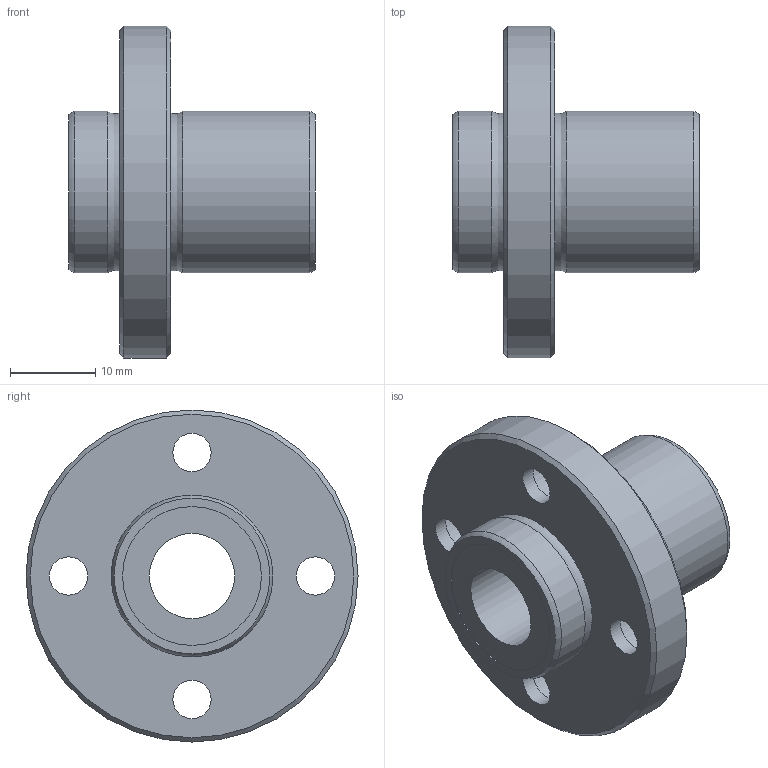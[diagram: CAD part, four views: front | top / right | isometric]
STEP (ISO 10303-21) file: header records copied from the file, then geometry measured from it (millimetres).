
FILE_DESCRIPTION((''),'2;1');
FILE_NAME('D:\製品 (図面)\カタログ用3D\リニアベアリング関連\STEP形式\LFB\LFB10.stp','2010-06-03T09:16:11',('Tsuchiya'),(''),'Autodesk Inventor 10','Autodesk Inventor 10','');
FILE_SCHEMA(('AUTOMOTIVE_DESIGN { 1 0 10303 214 1 1 1 1 }'));
Length unit declared in the file: millimetre
Products named in the file (1): LFB10
Bounding box: 29 x 39 x 39 mm (x, y, z)
Volume: 10331.4 mm3; surface area: 5581.3 mm2
Topology: 1 solids, 1 shells, 30 faces, 54 edges, 34 vertices
Faces by surface type: bspline 14, cylinder 6, plane 6, cone 2, torus 2
Full cylindrical faces by diameter (mm): 10 x1, 16.3 x2, 19 x2, 39 x1
Entity records: 907 total; most frequent: CARTESIAN_POINT 371, DIRECTION 102, ORIENTED_EDGE 68, EDGE_LOOP 68, AXIS2_PLACEMENT_3D 51, FACE_BOUND 38, VERTEX_POINT 34, CIRCLE 34
